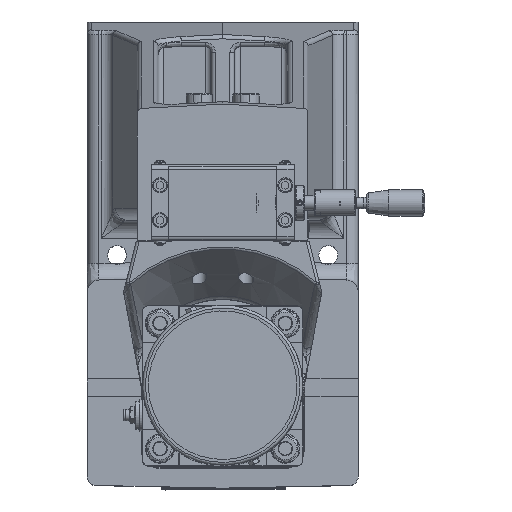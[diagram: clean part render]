
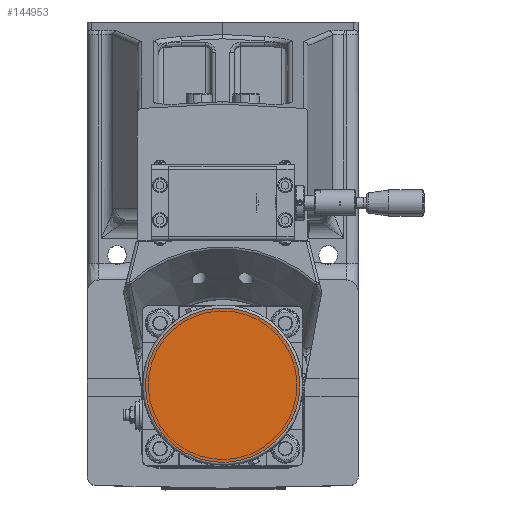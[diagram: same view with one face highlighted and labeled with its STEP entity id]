
A CAD part, top view. The second image highlights one B-rep face of the part: STEP entity #144953.
In plain terms, the highlighted planar face has unit normal (0, 0, 1).
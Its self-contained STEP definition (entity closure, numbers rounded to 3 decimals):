
#38048=PLANE('',#153012);
#44954=FACE_OUTER_BOUND('',#53002,.T.);
#53002=EDGE_LOOP('',(#112063));
#58686=CIRCLE('',#153011,53.);
#65603=VERTEX_POINT('',#216986);
#82313=EDGE_CURVE('',#65603,#65603,#58686,.T.);
#112063=ORIENTED_EDGE('',*,*,#82313,.F.);
#144953=ADVANCED_FACE('',(#44954),#38048,.F.);
#153011=AXIS2_PLACEMENT_3D('',#216987,#171097,#171098);
#153012=AXIS2_PLACEMENT_3D('',#216988,#171099,#171100);
#171097=DIRECTION('center_axis',(0.,0.,
-1.));
#171098=DIRECTION('ref_axis',(-0.924,-0.383,0.));
#171099=DIRECTION('center_axis',(0.,0.,
-1.));
#171100=DIRECTION('ref_axis',(-0.924,-0.383,0.));
#216986=CARTESIAN_POINT('',(48.966,-11.718,665.75));
#216987=CARTESIAN_POINT('Origin',(0.,-32.,
665.75));
#216988=CARTESIAN_POINT('Origin',(0.,-32.,
665.75));
